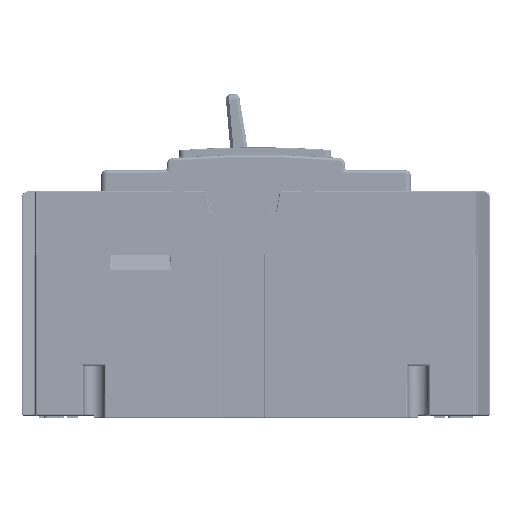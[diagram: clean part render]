
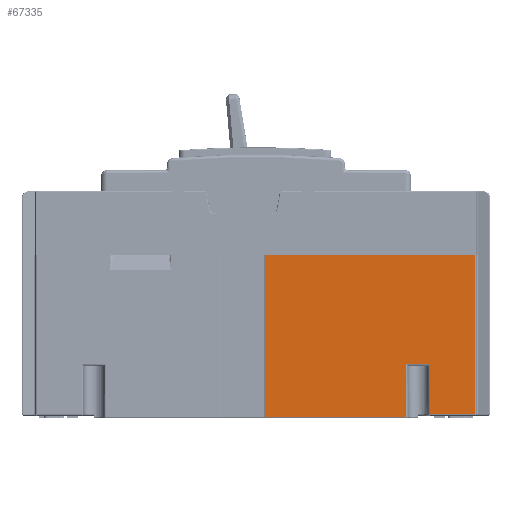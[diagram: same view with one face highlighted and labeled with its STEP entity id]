
A CAD part, front view. The second image highlights one B-rep face of the part: STEP entity #67335.
In plain terms, the highlighted planar face has unit normal (0, -1, 0).
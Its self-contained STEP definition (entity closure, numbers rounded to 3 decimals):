
#2683=PLANE('',#73114);
#6493=FACE_OUTER_BOUND('',#10260,.T.);
#10260=EDGE_LOOP('',(#60084,#60085,#60086,#60087,#60088,#60089,#60090,#60091));
#18888=LINE('',#156928,#25893);
#18909=LINE('',#157009,#25914);
#18911=LINE('',#157017,#25916);
#18914=LINE('',#157025,#25919);
#18942=LINE('',#157157,#25947);
#18945=LINE('',#157166,#25950);
#19003=LINE('',#157320,#26008);
#19004=LINE('',#157321,#26009);
#25893=VECTOR('',#89190,10.);
#25914=VECTOR('',#89233,16.6);
#25916=VECTOR('',#89241,8.);
#25919=VECTOR('',#89248,17.5);
#25947=VECTOR('',#89326,52.6);
#25950=VECTOR('',#89335,53.5);
#26008=VECTOR('',#89515,14.75);
#26009=VECTOR('',#89516,46.75);
#33243=VERTEX_POINT('',#156925);
#33244=VERTEX_POINT('',#156927);
#33268=VERTEX_POINT('',#157007);
#33269=VERTEX_POINT('',#157008);
#33272=VERTEX_POINT('',#157016);
#33275=VERTEX_POINT('',#157024);
#33298=VERTEX_POINT('',#157156);
#33301=VERTEX_POINT('',#157164);
#42427=EDGE_CURVE('',#33244,#33243,#18888,.T.);
#42458=EDGE_CURVE('',#33268,#33269,#18909,.T.);
#42462=EDGE_CURVE('',#33272,#33268,#18911,.T.);
#42466=EDGE_CURVE('',#33275,#33272,#18914,.T.);
#42505=EDGE_CURVE('',#33298,#33244,#18942,.T.);
#42510=EDGE_CURVE('',#33243,#33301,#18945,.T.);
#42592=EDGE_CURVE('',#33269,#33298,#19003,.T.);
#42593=EDGE_CURVE('',#33301,#33275,#19004,.T.);
#60084=ORIENTED_EDGE('',*,*,#42592,.T.);
#60085=ORIENTED_EDGE('',*,*,#42505,.T.);
#60086=ORIENTED_EDGE('',*,*,#42427,.T.);
#60087=ORIENTED_EDGE('',*,*,#42510,.T.);
#60088=ORIENTED_EDGE('',*,*,#42593,.T.);
#60089=ORIENTED_EDGE('',*,*,#42466,.T.);
#60090=ORIENTED_EDGE('',*,*,#42462,.T.);
#60091=ORIENTED_EDGE('',*,*,#42458,.T.);
#67335=ADVANCED_FACE('',(#6493),#2683,.T.);
#73114=AXIS2_PLACEMENT_3D('',#157319,#89513,#89514);
#89190=DIRECTION('',(-1.,0.,0.));
#89233=DIRECTION('',(0.,0.,-1.));
#89241=DIRECTION('',(1.,0.,0.));
#89248=DIRECTION('',(0.,0.,1.));
#89326=DIRECTION('',(0.,0.,1.));
#89335=DIRECTION('',(0.,0.,-1.));
#89513=DIRECTION('center_axis',(0.,-1.,0.));
#89514=DIRECTION('ref_axis',(0.,0.,-1.));
#89515=DIRECTION('',(1.,0.,0.));
#89516=DIRECTION('',(1.,0.,0.));
#156925=CARTESIAN_POINT('',(-266.5,112.575,0.));
#156927=CARTESIAN_POINT('',(-197.,112.575,0.));
#156928=CARTESIAN_POINT('',(-341.532,112.575,0.));
#157007=CARTESIAN_POINT('',(-211.75,112.575,-36.));
#157008=CARTESIAN_POINT('',(-211.75,112.575,-52.6));
#157009=CARTESIAN_POINT('',(-211.75,112.575,-36.));
#157016=CARTESIAN_POINT('',(-219.75,112.575,-36.));
#157017=CARTESIAN_POINT('',(-219.75,112.575,-36.));
#157024=CARTESIAN_POINT('',(-219.75,112.575,-53.5));
#157025=CARTESIAN_POINT('',(-219.75,112.575,-53.5));
#157156=CARTESIAN_POINT('',(-197.,112.575,-52.6));
#157157=CARTESIAN_POINT('',(-197.,112.575,-52.6));
#157164=CARTESIAN_POINT('',(-266.5,112.575,-53.5));
#157166=CARTESIAN_POINT('',(-266.5,112.575,0.));
#157319=CARTESIAN_POINT('Origin',(-339.143,112.575,-39.5));
#157320=CARTESIAN_POINT('',(-211.75,112.575,-52.6));
#157321=CARTESIAN_POINT('',(-266.5,112.575,-53.5));
